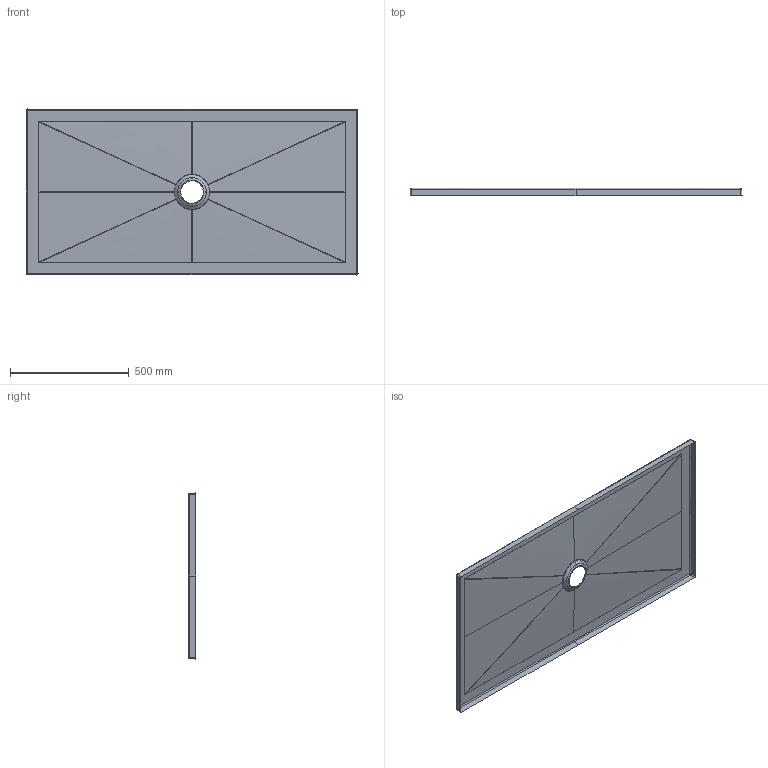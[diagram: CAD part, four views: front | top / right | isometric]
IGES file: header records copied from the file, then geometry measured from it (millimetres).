
Start section: START RECORD GO HERE.
Global section: file name: 1043_PD 140 X70 H3 LISCIO.igs; native system: DASSAULT SYSTEMES CATIA V5 R19 - www.3ds.com; preprocessor: CATIA Version 5 Release 19 SP 5 ; author: gioge; organization: LAPTOP-G94B6G74; date: 20200630.153058; units: millimetre
Bounding box: 1400 x 30.5 x 700 mm (x, y, z)
Surface area: 1091042.7 mm2 (no closed solid volume)
Topology: 0 solids, 0 shells, 82 faces, 376 edges, 372 vertices
Faces by surface type: bspline 56, revolution 24, plane 2
